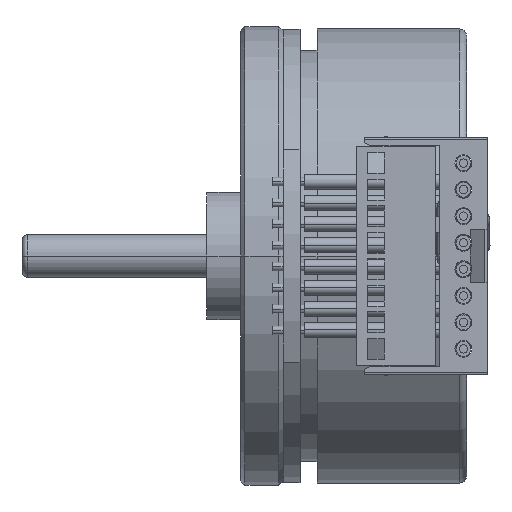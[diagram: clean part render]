
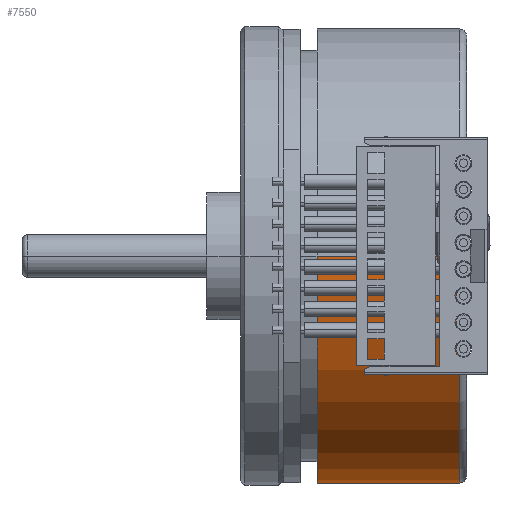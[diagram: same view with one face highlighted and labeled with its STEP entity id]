
A CAD part, front view. The second image highlights one B-rep face of the part: STEP entity #7550.
In plain terms, the highlighted cylindrical face has radius 21.4 mm (diameter 42.8 mm), a partial arc.
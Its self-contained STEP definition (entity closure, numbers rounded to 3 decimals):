
#1878=CARTESIAN_POINT('',(7.2,0.,0.));
#1879=DIRECTION('',(-1.,0.,0.));
#1880=DIRECTION('',(0.,1.,0.));
#1881=AXIS2_PLACEMENT_3D('',#1878,#1879,#1880);
#1894=DIRECTION('',(-1.,0.,0.));
#1895=VECTOR('',#1894,13.4);
#1896=CARTESIAN_POINT('',(20.6,21.4,0.));
#1897=LINE('',#1896,#1895);
#1901=DIRECTION('',(-1.,0.,0.));
#1902=VECTOR('',#1901,13.4);
#1903=CARTESIAN_POINT('',(20.6,-21.4,0.));
#1904=LINE('',#1903,#1902);
#1908=CARTESIAN_POINT('',(20.6,0.,0.));
#1909=DIRECTION('',(-1.,0.,0.));
#1910=DIRECTION('',(0.,1.,0.));
#1911=AXIS2_PLACEMENT_3D('',#1908,#1909,#1910);
#5206=CARTESIAN_POINT('',(20.6,21.4,0.));
#5207=CARTESIAN_POINT('',(7.2,21.4,0.));
#5208=VERTEX_POINT('',#5206);
#5209=VERTEX_POINT('',#5207);
#5218=CARTESIAN_POINT('',(20.6,-21.4,0.));
#5219=CARTESIAN_POINT('',(7.2,-21.4,0.));
#5220=VERTEX_POINT('',#5218);
#5221=VERTEX_POINT('',#5219);
#7538=CARTESIAN_POINT('',(-24.522,0.,0.));
#7539=DIRECTION('',(1.,0.,0.));
#7540=DIRECTION('',(0.,-1.,0.));
#7541=AXIS2_PLACEMENT_3D('',#7538,#7539,#7540);
#7542=CYLINDRICAL_SURFACE('',#7541,21.4);
#7543=ORIENTED_EDGE('',*,*,#7528,.T.);
#7544=ORIENTED_EDGE('',*,*,#7514,.T.);
#7545=ORIENTED_EDGE('',*,*,#7532,.F.);
#7547=ORIENTED_EDGE('',*,*,#7546,.F.);
#7548=EDGE_LOOP('',(#7543,#7544,#7545,#7547));
#7549=FACE_OUTER_BOUND('',#7548,.F.);
#7550=ADVANCED_FACE('',(#7549),#7542,.T.);
#1882=CIRCLE('',#1881,21.4);
#1912=CIRCLE('',#1911,21.4);
#7514=EDGE_CURVE('',#5209,#5221,#1882,.T.);
#7528=EDGE_CURVE('',#5208,#5209,#1897,.T.);
#7532=EDGE_CURVE('',#5220,#5221,#1904,.T.);
#7546=EDGE_CURVE('',#5208,#5220,#1912,.T.);
